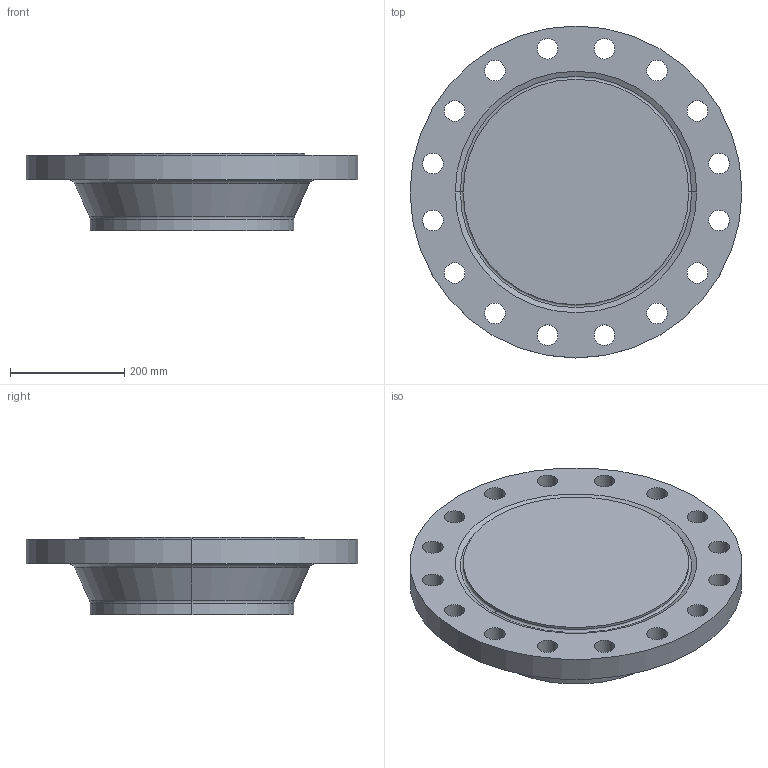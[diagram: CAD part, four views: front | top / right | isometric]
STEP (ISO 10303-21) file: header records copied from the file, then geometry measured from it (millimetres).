
FILE_DESCRIPTION (( 'STEP AP214' ), '1' );
FILE_NAME ('PN40 DN350 Type 21(ii) - Type H Face.STEP', '2019-01-05T21:42:57', ( '' ), ( '' ), 'SwSTEP 2.0', 'SolidWorks 2019', '' );
FILE_SCHEMA (( 'AUTOMOTIVE_DESIGN' ));
Length unit declared in the file: millimetre
Products named in the file (1): PN40 DN350 Type 21(ii) - Type H Face
Bounding box: 580 x 580 x 135 mm (x, y, z)
Volume: 21020306.6 mm3; surface area: 736179.7 mm2
Topology: 1 solids, 1 shells, 52 faces, 134 edges, 86 vertices
Faces by surface type: cylinder 38, torus 6, cone 4, plane 4
Entity records: 1728 total; most frequent: DIRECTION 332, CARTESIAN_POINT 273, ORIENTED_EDGE 268, AXIS2_PLACEMENT_3D 145, EDGE_CURVE 134, CIRCLE 92, EDGE_LOOP 86, VERTEX_POINT 86
